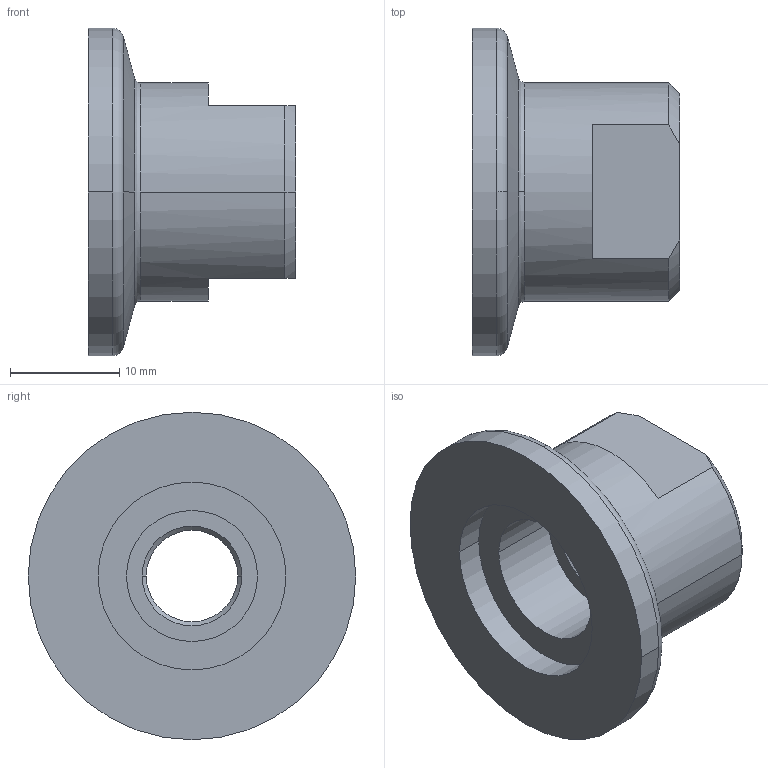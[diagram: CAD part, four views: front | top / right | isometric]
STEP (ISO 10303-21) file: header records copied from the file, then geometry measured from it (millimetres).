
FILE_DESCRIPTION((''),'2;1');
FILE_NAME('W:\211-566.stp','2003-10-13T12:52:58',('KAA'),(''),'Autodesk Inventor (R) 6.0','Autodesk Inventor (R) 6.0','');
FILE_SCHEMA(('CONFIG_CONTROL_DESIGN'));
Length unit declared in the file: millimetre
Products named in the file (1): 211-566
Bounding box: 19 x 30 x 30 mm (x, y, z)
Volume: 5134.7 mm3; surface area: 3085.5 mm2
Topology: 1 solids, 1 shells, 32 faces, 78 edges, 50 vertices
Faces by surface type: cone 12, cylinder 8, plane 8, torus 2, bspline 2
Entity records: 1137 total; most frequent: CARTESIAN_POINT 257, DIRECTION 184, ORIENTED_EDGE 156, AXIS2_PLACEMENT_3D 79, EDGE_CURVE 78, VERTEX_POINT 50, CIRCLE 48, EDGE_LOOP 36
